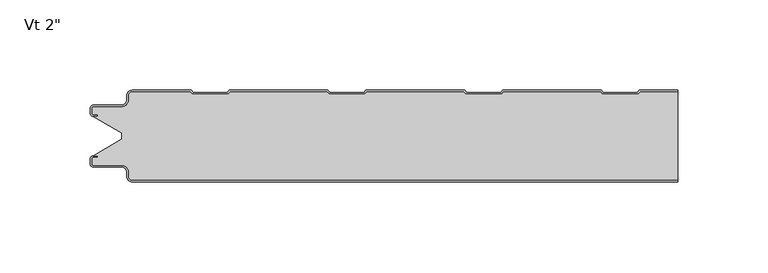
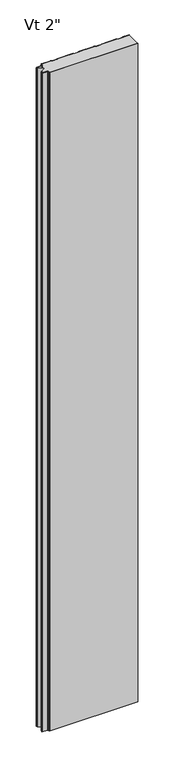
"""IFC4 building model written with IfcOpenShell, lengths in millimetres: plate geometry."""

import ifcopenshell
import ifcopenshell.guid

model = None  # the IFC model being written
_history = None  # IfcOwnerHistory: only IFC2X3 demands one
_inside = {}  # id of a spatial element -> (the spatial element, [elements in it])
_under = {}  # id of a project, library or spatial element -> (it, [spatial elements below it])
_declared = {}  # id of a project -> (the project, [libraries it declares])
_typed = {}  # id of a type object -> (the type object, [elements of that type])
_made_of = {}  # id of a material, layer set ... -> (it, [elements and type objects made of it])


def new_model(schema):
    """Start an empty IFC model of exactly this schema.

    Asked for "IFC4X3", IfcOpenShell would pick the latest addendum, in which some entities
    have other attributes; the version numbers below select the first issue.
    IFC2X3 requires an IfcOwnerHistory on every rooted entity: one is made here for all.
    """
    global model, _history
    if schema == "IFC4X3":
        model = ifcopenshell.file(schema_version=(4, 3, 0, 0))
    else:
        model = ifcopenshell.file(schema=schema)
    _inside.clear()
    _under.clear()
    _declared.clear()
    _typed.clear()
    _made_of.clear()
    _history = None
    if model.schema == "IFC2X3":
        org = make("IfcOrganization", Name="unknown")
        user = make(
            "IfcPersonAndOrganization",
            ThePerson=make("IfcPerson", FamilyName="unknown"),
            TheOrganization=org,
        )
        app = make(
            "IfcApplication",
            ApplicationDeveloper=org,
            Version="unknown",
            ApplicationFullName="unknown",
            ApplicationIdentifier="unknown",
        )
        _history = make(
            "IfcOwnerHistory",
            OwningUser=user,
            OwningApplication=app,
            ChangeAction="ADDED",
            CreationDate=0,
        )
    return model


def make(cls, **values):
    """One entity of the class cls with the attributes given. An attribute that is None is left unset."""
    return model.create_entity(
        cls, **{name: value for name, value in values.items() if value is not None}
    )


def rooted(cls, **values):
    """An entity with a GlobalId (a new one), such as an element, a storey or a relation."""
    return make(cls, GlobalId=ifcopenshell.guid.new(), OwnerHistory=_history, **values)


def si_unit(unit_type, name, prefix=None):
    """IfcSIUnit, for example si_unit("LENGTHUNIT", "METRE", prefix="MILLI")."""
    return make("IfcSIUnit", UnitType=unit_type, Prefix=prefix, Name=name)


def assignment(units):
    """IfcUnitAssignment: the units of a project."""
    return None if units is None else make("IfcUnitAssignment", Units=units)


def point(xyz):
    """IfcCartesianPoint."""
    return None if xyz is None else make("IfcCartesianPoint", Coordinates=xyz)


def direction(xyz):
    """IfcDirection."""
    return None if xyz is None else make("IfcDirection", DirectionRatios=xyz)


def frame(location, z_axis=None, x_axis=None):
    """IfcAxis2Placement3D, a coordinate frame: its origin and axes. An axis left out is left unset."""
    return make(
        "IfcAxis2Placement3D",
        Location=point(location),
        Axis=direction(z_axis),
        RefDirection=direction(x_axis),
    )


def origin():
    """The frame at (0, 0, 0) with its axes left unset."""
    return frame((0.0, 0.0, 0.0))


def place(relative_to, where):
    """IfcLocalPlacement: puts the frame where relative to a parent placement (None: the world)."""
    return make(
        "IfcLocalPlacement", PlacementRelTo=relative_to, RelativePlacement=where
    )


def context(
    kind, dimensions, precision=None, world=None, true_north=None, identifier=None
):
    """IfcGeometricRepresentationContext, for example the 3D "Model" context."""
    return make(
        "IfcGeometricRepresentationContext",
        ContextIdentifier=identifier,
        ContextType=kind,
        CoordinateSpaceDimension=dimensions,
        Precision=precision,
        WorldCoordinateSystem=world,
        TrueNorth=true_north,
    )


def project(units=None, contexts=None):
    """IfcProject with its units and contexts."""
    return rooted(
        "IfcProject",
        Name="project",
        RepresentationContexts=contexts,
        UnitsInContext=assignment(units),
    )


def spatial(cls, under=None, at=None, **own):
    """A site, building, storey or space (cls), placed at a placement, below another one or the project."""
    s = rooted(cls, ObjectPlacement=at, **own)
    if under is not None:
        _under.setdefault(under.id(), (under, []))[1].append(s)
    return s


def polyline(points):
    """IfcPolyline through the points."""
    return make("IfcPolyline", Points=[point(p) for p in points])


def circle_curve(where, radius):
    """IfcCircle in the frame where."""
    return make("IfcCircle", Position=where, Radius=radius)


def shape(context_of_items, identifier, shape_type, items):
    """IfcShapeRepresentation: the items that make up one representation, for example the "Body"."""
    return make(
        "IfcShapeRepresentation",
        ContextOfItems=context_of_items,
        RepresentationIdentifier=identifier,
        RepresentationType=shape_type,
        Items=items,
    )


def source(mapping_origin, context_of_items, identifier, shape_type, items):
    """IfcRepresentationMap: a shape defined once, which mapped items show again and again."""
    return make(
        "IfcRepresentationMap",
        MappingOrigin=mapping_origin,
        MappedRepresentation=shape(context_of_items, identifier, shape_type, items),
    )


def transform(
    local_origin,
    x_axis=None,
    y_axis=None,
    z_axis=None,
    scale=None,
    scale2=None,
    scale3=None,
    uniform=True,
):
    """IfcCartesianTransformationOperator3D, or its non-uniform kind. x_axis, y_axis, z_axis: its Axis1, 2, 3."""
    if uniform:
        return make(
            "IfcCartesianTransformationOperator3D",
            Axis1=direction(x_axis),
            Axis2=direction(y_axis),
            LocalOrigin=point(local_origin),
            Scale=scale,
            Axis3=direction(z_axis),
        )
    return make(
        "IfcCartesianTransformationOperator3DnonUniform",
        Axis1=direction(x_axis),
        Axis2=direction(y_axis),
        LocalOrigin=point(local_origin),
        Scale=scale,
        Axis3=direction(z_axis),
        Scale2=scale2,
        Scale3=scale3,
    )


def mapped(mapping_source, mapping_target):
    """IfcMappedItem: shows the shape of a source again, moved by a transform."""
    return make(
        "IfcMappedItem", MappingSource=mapping_source, MappingTarget=mapping_target
    )


def made_of(thing, what):
    """Note that an element or type object is made of a material, layer set ...; save() writes the relation."""
    if what is not None:
        _made_of.setdefault(what.id(), (what, []))[1].append(thing)
    return thing


def element(
    cls,
    number,
    at=None,
    inside=None,
    cuts=None,
    type_object=None,
    material=None,
    context=None,
    identifier="Body",
    shape_type=None,
    held_by="IfcProductDefinitionShape",
    body=None,
    shapes=None,
    **own,
):
    """One element of the class cls, such as IfcWall. Its Tag is "e" and its number.

    at: its placement. inside: the storey or other place that contains it. cuts: it is an
    opening in that element (IfcRelVoidsElement). A single representation is given by context,
    identifier, shape_type and body (its items); several are given by shapes. held_by: the class
    of the entity that holds the representations. save() writes the other relations.
    """
    e = rooted(cls, Tag="e%d" % number, ObjectPlacement=at, **own)
    if body is not None:
        shapes = [shape(context, identifier, shape_type, body)]
    if shapes is not None:
        e.Representation = make(held_by, Representations=shapes)
    if inside is not None:
        _inside.setdefault(inside.id(), (inside, []))[1].append(e)
    if cuts is not None:
        rooted(
            "IfcRelVoidsElement", RelatingBuildingElement=cuts, RelatedOpeningElement=e
        )
    if type_object is not None:
        _typed.setdefault(type_object.id(), (type_object, []))[1].append(e)
    return made_of(e, material)


def aggregate(whole, parts):
    """IfcRelAggregates: a whole, such as a stair, and the parts it consists of."""
    return rooted("IfcRelAggregates", RelatingObject=whole, RelatedObjects=parts)


def save(model, path):
    """Write the relations noted so far, then the file.

    IfcRelAggregates (storeys below a building ...), IfcRelContainedInSpatialStructure (elements
    in a storey), IfcRelDefinesByType, IfcRelAssociatesMaterial and IfcRelDeclares: one each for
    every whole, place, type object, material and project.
    """
    for whole, parts in _under.values():
        aggregate(whole, parts)
    for where, things in _inside.values():
        rooted(
            "IfcRelContainedInSpatialStructure",
            RelatedElements=things,
            RelatingStructure=where,
        )
    for kind, things in _typed.values():
        rooted("IfcRelDefinesByType", RelatedObjects=things, RelatingType=kind)
    for what, things in _made_of.values():
        rooted("IfcRelAssociatesMaterial", RelatedObjects=things, RelatingMaterial=what)
    for by, libraries in _declared.values():
        rooted("IfcRelDeclares", RelatingContext=by, RelatedDefinitions=libraries)
    model.write(path)


def plane_surface(at):
    """IfcPlane: the flat surface through the origin of the frame at, square to its z axis."""
    return make("IfcPlane", Position=at)


def cylinder_surface(at, radius):
    """IfcCylindricalSurface: all points at the distance radius from the z axis of the frame at."""
    return make("IfcCylindricalSurface", Position=at, Radius=radius)


def revolved_surface(curve, axis_point, axis_direction):
    """IfcSurfaceOfRevolution: the curve turned about the line through axis_point along axis_direction."""
    return make(
        "IfcSurfaceOfRevolution",
        SweptCurve=make("IfcArbitraryOpenProfileDef", ProfileType="CURVE", Curve=curve),
        AxisPosition=make("IfcAxis1Placement", Location=point(axis_point), Axis=direction(axis_direction)),
    )


def advanced_brep(points, edges, surfaces, faces):
    """IfcAdvancedBrep: a solid bounded by faces that lie on surfaces and meet in shared edges.

    An edge is (start, end): straight between two places in points (the first is 0);
    or (start, end, curve); or (start, end, curve, False) where it runs against its curve.
    A face is (place in surfaces, loops), or (place, loops, False) where it looks against
    its surface's normal. A loop lists edges by number (the first is 1), with a minus sign
    where the edge is run from its end to its start. The first loop is the outer one.
    """
    corners = [point(p) for p in points]
    vertices = [make("IfcVertexPoint", VertexGeometry=c) for c in corners]
    made = []
    for start, end, *more in edges:
        made.append(
            make(
                "IfcEdgeCurve",
                EdgeStart=vertices[start],
                EdgeEnd=vertices[end],
                EdgeGeometry=more[0] if more else make("IfcPolyline", Points=[corners[start], corners[end]]),
                SameSense=more[1] if len(more) > 1 else True,
            )
        )
    hull = []
    for where, loops, *sense in faces:
        bounds = []
        for j, loop in enumerate(loops):
            ring = [make("IfcOrientedEdge", EdgeElement=made[abs(k) - 1], Orientation=k > 0) for k in loop]
            bounds.append(
                make(
                    "IfcFaceOuterBound" if j == 0 else "IfcFaceBound",
                    Bound=make("IfcEdgeLoop", EdgeList=ring),
                    Orientation=True,
                )
            )
        hull.append(make("IfcAdvancedFace", Bounds=bounds, FaceSurface=surfaces[where], SameSense=sense[0] if sense else True))
    return make("IfcAdvancedBrep", Outer=make("IfcClosedShell", CfsFaces=hull))


def plate_d6ec243f(model_context):
    return source(origin(), model_context, "Body", "AdvancedBrep", [
        advanced_brep(
        [(-149.8869005, -2.9775467, 2400.0), (-149.8869005, -5.2690127, 2400.0), (-153.8644925, -9.2466047, 2400.0), (-169.4612815, -9.2466047, 2400.0), (-170.0490766, -9.8343998, 2400.0), (-170.0490766, -12.9058755, 2400.0), (-169.4612228, -13.4937293, 2400.0), (-167.1062063, -13.4937293, 2400.0), (-167.1062063, -14.4937446, 2400.0), (-169.395785, -14.4937446, 2400.0), (-153.7374998, -23.7509179, 2400.0), (-153.7374998, -27.0490865, 2400.0), (-169.395785, -36.3062598, 2400.0), (-167.1062063, -36.3062598, 2400.0), (-167.1062063, -37.3062598, 2400.0), (-169.4612418, -37.3062598, 2400.0), (-170.0491185, -37.8941365, 2400.0), (-170.0491185, -40.9656854, 2400.0), (-169.4612416, -41.5535623, 2400.0), (-153.8648171, -41.5535623, 2400.0), (-149.88755, -45.5308295, 2400.0), (-149.88755, -47.8227194, 2400.0), (-147.910276, -49.7999935, 2400.0), (153.7374998, -49.8, 2400.0), (153.7374998, -1.0000044, 2400.0), (133.0522163, -1.0000044, 2400.0), (131.9796914, -2.1911639, 2400.0), (112.1966967, -2.1911639, 2400.0), (111.1241719, -1.0000044, 2400.0), (57.429596, -1.0000044, 2400.0), (56.3570712, -2.1911639, 2400.0), (36.5740765, -2.1911639, 2400.0), (35.5015516, -1.0000044, 2400.0), (-18.1930243, -1.0000044, 2400.0), (-19.2655491, -2.1911639, 2400.0), (-39.0485438, -2.1911639, 2400.0), (-40.1210686, -1.0000044, 2400.0), (-93.8156445, -1.0000044, 2400.0), (-94.8881694, -2.1911639, 2400.0), (-114.671164, -2.1911639, 2400.0), (-115.7436889, -0.9994917, 2400.0), (-147.9088455, -0.9994917, 2400.0), (-149.8869005, -2.9775467, 0.0), (-147.9088455, -0.9994917, 0.0), (-115.7436889, -0.9994917, 0.0), (-114.671164, -2.1911639, 0.0), (-94.8881694, -2.1911639, 0.0), (-93.8156445, -1.0000044, 0.0), (-40.1210686, -1.0000044, 0.0), (-39.0485438, -2.1911639, 0.0), (-19.2655491, -2.1911639, 0.0), (-18.1930243, -1.0000044, 0.0), (35.5015516, -1.0000044, 0.0), (36.5740765, -2.1911639, 0.0), (56.3570712, -2.1911639, 0.0), (57.429596, -1.0000044, 0.0), (111.1241719, -1.0000044, 0.0), (112.1966967, -2.1911639, 0.0), (131.9796914, -2.1911639, 0.0), (133.0522163, -1.0000044, 0.0), (153.7374998, -1.0000044, 0.0), (153.7374998, -49.8, 0.0), (-147.910276, -49.8, 0.0), (-149.88755, -47.8227194, 0.0), (-149.88755, -45.5308295, 0.0), (-153.8648171, -41.5535623, 0.0), (-169.4612416, -41.5535623, 0.0), (-170.0491185, -40.9656854, 0.0), (-170.0491185, -37.8941365, 0.0), (-169.4612418, -37.3062598, 0.0), (-167.1062063, -37.3062598, 0.0), (-167.1062063, -36.3062598, 0.0), (-169.395785, -36.3062598, 0.0), (-153.7374998, -27.0490865, 0.0), (-153.7374998, -23.7509179, 0.0), (-169.395785, -14.4937446, 0.0), (-167.1062063, -14.4937446, 0.0), (-167.1062063, -13.4937293, 0.0), (-169.4612228, -13.4937293, 0.0), (-170.0490766, -12.9058755, 0.0), (-170.0490766, -9.8343998, 0.0), (-169.4612815, -9.2466047, 0.0), (-153.8644925, -9.2466047, 0.0), (-149.8869005, -5.2690127, 0.0)],
        [
            (0, 1),
            (1, 2, circle_curve(frame((-153.8644925, -5.2690127, 2400.0), z_axis=(0.0, 0.0, -1.0), x_axis=(0.0, 1.0, 0.0)), 3.977592)),
            (2, 3),
            (3, 4, circle_curve(frame((-169.4612815, -9.8343998, 2400.0), z_axis=(0.0, 0.0, 1.0), x_axis=(0.0, 1.0, 0.0)), 0.5877951)),
            (4, 5),
            (5, 6, circle_curve(frame((-169.4612228, -12.9058755, 2400.0), z_axis=(0.0, 0.0, 1.0), x_axis=(0.0, 1.0, 0.0)), 0.5878538)),
            (6, 7),
            (7, 8),
            (8, 9),
            (9, 10),
            (10, 11),
            (11, 12),
            (12, 13),
            (13, 14),
            (14, 15),
            (15, 16, circle_curve(frame((-169.4612418, -37.8941365, 2400.0), z_axis=(0.0, 0.0, 1.0), x_axis=(0.0, 1.0, 0.0)), 0.5878766)),
            (16, 17),
            (17, 18, circle_curve(frame((-169.4612416, -40.9656854, 2400.0), z_axis=(0.0, 0.0, 1.0), x_axis=(0.0, 1.0, 0.0)), 0.5878769)),
            (18, 19),
            (19, 20, circle_curve(frame((-153.8648171, -45.5308295, 2400.0), z_axis=(0.0, 0.0, -1.0), x_axis=(0.0, 1.0, 0.0)), 3.9772671)),
            (20, 21),
            (21, 22, circle_curve(frame((-147.910276, -47.8227194, 2400.0), z_axis=(0.0, 0.0, 1.0), x_axis=(0.0, 1.0, 0.0)), 1.977274)),
            (22, 23),
            (23, 24),
            (24, 25),
            (25, 26),
            (26, 27),
            (27, 28),
            (28, 29),
            (29, 30),
            (30, 31),
            (31, 32),
            (32, 33),
            (33, 34),
            (34, 35),
            (35, 36),
            (36, 37),
            (37, 38),
            (38, 39),
            (39, 40),
            (40, 41),
            (41, 0, circle_curve(frame((-147.9088455, -2.9775467, 2400.0), z_axis=(0.0, 0.0, 1.0), x_axis=(0.0, 1.0, 0.0)), 1.978055)),
            (42, 43, circle_curve(frame((-147.9088455, -2.9775467, 0.0), z_axis=(0.0, 0.0, -1.0), x_axis=(0.0, 1.0, 0.0)), 1.978055)),
            (43, 44),
            (44, 45),
            (45, 46),
            (46, 47),
            (47, 48),
            (48, 49),
            (49, 50),
            (50, 51),
            (51, 52),
            (52, 53),
            (53, 54),
            (54, 55),
            (55, 56),
            (56, 57),
            (57, 58),
            (58, 59),
            (59, 60),
            (60, 61),
            (61, 62),
            (62, 63, circle_curve(frame((-147.910276, -47.8227194, 0.0), z_axis=(0.0, 0.0, -1.0), x_axis=(0.0, 1.0, 0.0)), 1.977274)),
            (63, 64),
            (64, 65, circle_curve(frame((-153.8648171, -45.5308295, 0.0), z_axis=(0.0, 0.0, 1.0), x_axis=(0.0, 1.0, 0.0)), 3.9772671)),
            (65, 66),
            (66, 67, circle_curve(frame((-169.4612416, -40.9656854, 0.0), z_axis=(0.0, 0.0, -1.0), x_axis=(0.0, 1.0, 0.0)), 0.5878769)),
            (67, 68),
            (68, 69, circle_curve(frame((-169.4612418, -37.8941365, 0.0), z_axis=(0.0, 0.0, -1.0), x_axis=(0.0, 1.0, 0.0)), 0.5878766)),
            (69, 70),
            (70, 71),
            (71, 72),
            (72, 73),
            (73, 74),
            (74, 75),
            (75, 76),
            (76, 77),
            (77, 78),
            (78, 79, circle_curve(frame((-169.4612228, -12.9058755, 0.0), z_axis=(0.0, 0.0, -1.0), x_axis=(0.0, 1.0, 0.0)), 0.5878538)),
            (79, 80),
            (80, 81, circle_curve(frame((-169.4612815, -9.8343998, 0.0), z_axis=(0.0, 0.0, -1.0), x_axis=(0.0, 1.0, 0.0)), 0.5877951)),
            (81, 82),
            (82, 83, circle_curve(frame((-153.8644925, -5.2690127, 0.0), z_axis=(0.0, 0.0, 1.0), x_axis=(0.0, 1.0, 0.0)), 3.977592)),
            (83, 42),
            (23, 61),
            (60, 24),
            (41, 43),
            (42, 0),
            (83, 1),
            (82, 2),
            (81, 3),
            (80, 4),
            (79, 5),
            (78, 6),
            (77, 7),
            (76, 8),
            (75, 9),
            (74, 10),
            (21, 63),
            (62, 22),
            (20, 64),
            (19, 65),
            (18, 66),
            (17, 67),
            (16, 68),
            (15, 69),
            (14, 70),
            (13, 71),
            (12, 72),
            (11, 73),
            (59, 25),
            (58, 26),
            (57, 27),
            (56, 28),
            (55, 29),
            (54, 30),
            (53, 31),
            (52, 32),
            (51, 33),
            (50, 34),
            (49, 35),
            (48, 36),
            (47, 37),
            (46, 38),
            (45, 39),
            (44, 40),
        ],
        [
            plane_surface(frame((422.5250002, -49.8, 2400.0), z_axis=(0.0, 0.0, 1.0), x_axis=(0.0, -1.0, 0.0))),
            plane_surface(frame((422.5250002, -49.8, 0.0), z_axis=(0.0, 0.0, -1.0), x_axis=(0.0, -1.0, 0.0))),
            plane_surface(frame((153.7374998, -60.8, 2400.0), z_axis=(1.0, 0.0, 0.0), x_axis=(0.0, 0.0, -1.0))),
            cylinder_surface(frame((-147.9088455, -2.9775467, 2400.0), z_axis=(0.0, 0.0, 1.0), x_axis=(0.0, 1.0, 0.0)), 1.978055),
            plane_surface(frame((-149.8869005, -5.2690127, 2400.0), z_axis=(-1.0, 0.0, 0.0), x_axis=(0.0, 0.0, -1.0))),
            revolved_surface(polyline([(-153.8644925, -1.2914207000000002, 0.0), (-153.8644925, -1.2914207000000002, 2400.0)]), (-153.8644925, -5.2690127, 2400.0), (0.0, 0.0, -1.0)),
            plane_surface(frame((-169.4612815, -9.2466047, 2400.0), z_axis=(0.0, 1.0, 0.0), x_axis=(0.0, 0.0, -1.0))),
            cylinder_surface(frame((-169.4612815, -9.8343998, 2400.0), z_axis=(0.0, 0.0, 1.0), x_axis=(0.0, 1.0, 0.0)), 0.5877951),
            plane_surface(frame((-170.0490766, -12.9058755, 2400.0), z_axis=(-1.0, 0.0, 0.0), x_axis=(0.0, 0.0, -1.0))),
            cylinder_surface(frame((-169.4612228, -12.9058755, 2400.0), z_axis=(0.0, 0.0, 1.0), x_axis=(0.0, 1.0, 0.0)), 0.5878538),
            plane_surface(frame((-167.1062063, -13.4937293, 2400.0), z_axis=(0.0, -1.0, 0.0), x_axis=(0.0, 0.0, -1.0))),
            plane_surface(frame((-167.1062063, -14.4937446, 2400.0), z_axis=(-1.0, 0.0, 0.0), x_axis=(0.0, 0.0, -1.0))),
            plane_surface(frame((-169.395785, -14.4937446, 2400.0), z_axis=(0.0, 1.0, 0.0), x_axis=(0.0, 0.0, -1.0))),
            plane_surface(frame((-153.7374998, -23.7509179, 2400.0), z_axis=(-0.5089147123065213, -0.860816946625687, 0.0), x_axis=(0.0, 0.0, -1.0))),
            cylinder_surface(frame((-147.910276, -47.8227194, 2400.0), z_axis=(0.0, 0.0, 1.0), x_axis=(0.0, 1.0, 0.0)), 1.977274),
            plane_surface(frame((-149.88755, -47.8227194, 2400.0), z_axis=(-1.0, 0.0, 0.0), x_axis=(0.0, 0.0, -1.0))),
            revolved_surface(polyline([(-153.8648171, -41.553562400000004, 0.0), (-153.8648171, -41.553562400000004, 2400.0)]), (-153.8648171, -45.5308295, 2400.0), (0.0, 0.0, -1.0)),
            plane_surface(frame((-153.8648171, -41.5535623, 2400.0), z_axis=(0.0, -1.0, 0.0), x_axis=(0.0, 0.0, -1.0))),
            cylinder_surface(frame((-169.4612416, -40.9656854, 2400.0), z_axis=(0.0, 0.0, 1.0), x_axis=(0.0, 1.0, 0.0)), 0.5878769),
            plane_surface(frame((-170.0491185, -40.9656854, 2400.0), z_axis=(-1.0, 0.0, 0.0), x_axis=(0.0, 0.0, -1.0))),
            cylinder_surface(frame((-169.4612418, -37.8941365, 2400.0), z_axis=(0.0, 0.0, 1.0), x_axis=(0.0, 1.0, 0.0)), 0.5878766),
            plane_surface(frame((-169.4612418, -37.3062598, 2400.0), z_axis=(0.0, 1.0, 0.0), x_axis=(0.0, 0.0, -1.0))),
            plane_surface(frame((-167.1062063, -37.3062598, 2400.0), z_axis=(-1.0, 0.0, 0.0), x_axis=(0.0, 0.0, -1.0))),
            plane_surface(frame((-167.1062063, -36.3062598, 2400.0), z_axis=(0.0, -1.0, 0.0), x_axis=(0.0, 0.0, -1.0))),
            plane_surface(frame((997.0725653, -49.8, 2400.0), z_axis=(0.0, -1.0, 0.0), x_axis=(0.0, 0.0, -1.0))),
            plane_surface(frame((-169.395785, -36.3062598, 2400.0), z_axis=(-0.5089147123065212, 0.860816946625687, 0.0), x_axis=(0.0, 0.0, -1.0))),
            plane_surface(frame((-153.7374998, -27.0490865, 2400.0), z_axis=(-1.0, 0.0, 0.0), x_axis=(0.0, 0.0, -1.0))),
            plane_surface(frame((133.0522163, -1.0000044, 2400.0), z_axis=(0.0, 1.0, 0.0), x_axis=(0.0, 0.0, -1.0))),
            plane_surface(frame((131.9796914, -2.1911639, 2400.0), z_axis=(-0.7431448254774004, 0.6691306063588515, 0.0), x_axis=(0.0, 0.0, -1.0))),
            plane_surface(frame((112.1966967, -2.1911639, 2400.0), z_axis=(0.0, 1.0, 0.0), x_axis=(0.0, 0.0, -1.0))),
            plane_surface(frame((111.1241719, -1.0000044, 2400.0), z_axis=(0.7431448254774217, 0.6691306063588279, 0.0), x_axis=(0.0, 0.0, -1.0))),
            plane_surface(frame((57.429596, -1.0000044, 2400.0), z_axis=(0.0, 1.0, 0.0), x_axis=(0.0, 0.0, -1.0))),
            plane_surface(frame((56.3570712, -2.1911639, 2400.0), z_axis=(-0.7431448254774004, 0.6691306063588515, 0.0), x_axis=(0.0, 0.0, -1.0))),
            plane_surface(frame((36.5740765, -2.1911639, 2400.0), z_axis=(0.0, 1.0, 0.0), x_axis=(0.0, 0.0, -1.0))),
            plane_surface(frame((35.5015516, -1.0000044, 2400.0), z_axis=(0.7431448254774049, 0.6691306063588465, 0.0), x_axis=(0.0, 0.0, -1.0))),
            plane_surface(frame((-18.1930243, -1.0000044, 2400.0), z_axis=(0.0, 1.0, 0.0), x_axis=(0.0, 0.0, -1.0))),
            plane_surface(frame((-19.2655491, -2.1911639, 2400.0), z_axis=(-0.7431448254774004, 0.6691306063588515, 0.0), x_axis=(0.0, 0.0, -1.0))),
            plane_surface(frame((-39.0485438, -2.1911639, 2400.0), z_axis=(0.0, 1.0, 0.0), x_axis=(0.0, 0.0, -1.0))),
            plane_surface(frame((-40.1210686, -1.0000044, 2400.0), z_axis=(0.7431448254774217, 0.6691306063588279, 0.0), x_axis=(0.0, 0.0, -1.0))),
            plane_surface(frame((-93.8156445, -1.0000044, 2400.0), z_axis=(0.0, 1.0, 0.0), x_axis=(0.0, 0.0, -1.0))),
            plane_surface(frame((-94.8881694, -2.1911639, 2400.0), z_axis=(-0.7431448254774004, 0.6691306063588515, 0.0), x_axis=(0.0, 0.0, -1.0))),
            plane_surface(frame((-114.671164, -2.1911639, 2400.0), z_axis=(0.0, 1.0, 0.0), x_axis=(0.0, 0.0, -1.0))),
            plane_surface(frame((-115.7436889, -0.9994917, 2400.0), z_axis=(0.7432879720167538, 0.6689715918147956, 0.0), x_axis=(0.0, 0.0, -1.0))),
            plane_surface(frame((-147.9088455, -0.9994917, 2400.0), z_axis=(0.0, 1.0, 0.0), x_axis=(0.0, 0.0, -1.0))),
        ],
        [
            (0, [[1, 2, 3, 4, 5, 6, 7, 8, 9, 10, 11, 12, 13, 14, 15, 16, 17, 18, 19, 20, 21, 22, 23, 24, 25, 26, 27, 28, 29, 30, 31, 32, 33, 34, 35, 36, 37, 38, 39, 40, 41, 42]]),
            (1, [[43, 44, 45, 46, 47, 48, 49, 50, 51, 52, 53, 54, 55, 56, 57, 58, 59, 60, 61, 62, 63, 64, 65, 66, 67, 68, 69, 70, 71, 72, 73, 74, 75, 76, 77, 78, 79, 80, 81, 82, 83, 84]]),
            (2, [[85, -61, 86, -24]]),
            (3, [[87, -43, 88, -42]]),
            (4, [[-88, -84, 89, -1]]),
            (5, [[-89, -83, 90, -2]]),
            (6, [[-90, -82, 91, -3]]),
            (7, [[-91, -81, 92, -4]]),
            (8, [[-92, -80, 93, -5]]),
            (9, [[-93, -79, 94, -6]]),
            (10, [[-94, -78, 95, -7]]),
            (11, [[-95, -77, 96, -8]]),
            (12, [[-96, -76, 97, -9]]),
            (13, [[-97, -75, 98, -10]]),
            (14, [[99, -63, 100, -22]]),
            (15, [[101, -64, -99, -21]]),
            (16, [[102, -65, -101, -20]]),
            (17, [[103, -66, -102, -19]]),
            (18, [[104, -67, -103, -18]]),
            (19, [[105, -68, -104, -17]]),
            (20, [[106, -69, -105, -16]]),
            (21, [[107, -70, -106, -15]]),
            (22, [[108, -71, -107, -14]]),
            (23, [[109, -72, -108, -13]]),
            (24, [[-62, -85, -23, -100]]),
            (25, [[110, -73, -109, -12]]),
            (26, [[-98, -74, -110, -11]]),
            (27, [[-25, -86, -60, 111]]),
            (28, [[-111, -59, 112, -26]]),
            (29, [[-112, -58, 113, -27]]),
            (30, [[-113, -57, 114, -28]]),
            (31, [[-114, -56, 115, -29]]),
            (32, [[-115, -55, 116, -30]]),
            (33, [[-116, -54, 117, -31]]),
            (34, [[-117, -53, 118, -32]]),
            (35, [[-118, -52, 119, -33]]),
            (36, [[-119, -51, 120, -34]]),
            (37, [[-120, -50, 121, -35]]),
            (38, [[-121, -49, 122, -36]]),
            (39, [[-122, -48, 123, -37]]),
            (40, [[-123, -47, 124, -38]]),
            (41, [[-124, -46, 125, -39]]),
            (42, [[-125, -45, 126, -40]]),
            (43, [[-126, -44, -87, -41]]),
        ],
    ),
        advanced_brep(
        [(133.0522163, -1.0, 2400.0), (153.7374998, -1.0, 2400.0), (153.7374998, 0.0, 2400.0), (132.6097769, 0.0, 2400.0), (131.5372521, -1.1911595, 2400.0), (112.6391361, -1.1911595, 2400.0), (111.5666112, 0.0, 2400.0), (56.9871567, 0.0, 2400.0), (55.9146318, -1.1911595, 2400.0), (37.0165158, -1.1911595, 2400.0), (35.943991, 0.0, 2400.0), (-18.6354636, 0.0, 2400.0), (-19.7079884, -1.1911595, 2400.0), (-38.6061045, -1.1911595, 2400.0), (-39.6786293, 0.0, 2400.0), (-94.2580838, 0.0, 2400.0), (-95.3306087, -1.1911595, 2400.0), (-114.2287247, -1.1911595, 2400.0), (-115.3012496, 0.0, 2400.0), (-147.9102806, 0.0, 2400.0), (-150.8875472, -2.9772904, 2400.0), (-150.8875472, -5.2691742, 2400.0), (-153.8648158, -8.2464427, 2400.0), (-169.4612418, -8.2464427, 2400.0), (-171.0491183, -9.8343193, 2400.0), (-171.0491183, -12.905868, 2400.0), (-169.4612418, -14.4937445, 2400.0), (-167.1062063, -14.4937445, 2400.0), (-167.1062063, -13.4937445, 2400.0), (-169.4612418, -13.4937445, 2400.0), (-170.0491183, -12.905868, 2400.0), (-170.0491183, -9.8343193, 2400.0), (-169.4612418, -9.2464427, 2400.0), (-153.8648158, -9.2464427, 2400.0), (-149.8875472, -5.2691742, 2400.0), (-149.8875472, -2.9772904, 2400.0), (-147.9102799, -1.0000218, 2400.0), (-115.7436889, -1.0, 2400.0), (-114.671164, -2.1911595, 2400.0), (-94.8881694, -2.1911595, 2400.0), (-93.8156445, -1.0, 2400.0), (-40.1210686, -1.0, 2400.0), (-39.0485438, -2.1911595, 2400.0), (-19.2655491, -2.1911595, 2400.0), (-18.1930243, -1.0, 2400.0), (35.5015516, -1.0, 2400.0), (36.5740765, -2.1911595, 2400.0), (56.3570712, -2.1911595, 2400.0), (57.429596, -1.0, 2400.0), (111.1241719, -1.0, 2400.0), (112.1966967, -2.1911595, 2400.0), (131.9796914, -2.1911595, 2400.0), (132.6097769, 0.0, 0.0), (153.7374998, 0.0, 0.0), (153.7374998, -1.0, 0.0), (133.0522163, -1.0, 0.0), (131.9796914, -2.1911595, 0.0), (112.1966967, -2.1911595, 0.0), (111.1241719, -1.0, 0.0), (57.429596, -1.0, 0.0), (56.3570712, -2.1911595, 0.0), (36.5740765, -2.1911595, 0.0), (35.5015516, -1.0, 0.0), (-18.1930243, -1.0, 0.0), (-19.2655491, -2.1911595, 0.0), (-39.0485438, -2.1911595, 0.0), (-40.1210686, -1.0, 0.0), (-93.8156445, -1.0, 0.0), (-94.8881694, -2.1911595, 0.0), (-114.671164, -2.1911595, 0.0), (-115.7436889, -1.0, 0.0), (-147.9102799, -1.0, 0.0), (-149.8875472, -2.9772904, 0.0), (-149.8875472, -5.2691742, 0.0), (-153.8648158, -9.2464427, 0.0), (-169.4612418, -9.2464427, 0.0), (-170.0491183, -9.8343193, 0.0), (-170.0491183, -12.905868, 0.0), (-169.4612418, -13.4937445, 0.0), (-167.1062063, -13.4937445, 0.0), (-167.1062063, -14.4937445, 0.0), (-169.4612418, -14.4937445, 0.0), (-171.0491183, -12.905868, 0.0), (-171.0491183, -9.8343193, 0.0), (-169.4612418, -8.2464427, 0.0), (-153.8648158, -8.2464427, 0.0), (-150.8875472, -5.2691742, 0.0), (-150.8875472, -2.9772904, 0.0), (-147.9102806, -2.18e-05, 0.0), (-115.3012496, 0.0, 0.0), (-114.2287247, -1.1911595, 0.0), (-95.3306087, -1.1911595, 0.0), (-94.2580838, 0.0, 0.0), (-39.6786293, 0.0, 0.0), (-38.6061045, -1.1911595, 0.0), (-19.7079884, -1.1911595, 0.0), (-18.6354636, 0.0, 0.0), (35.943991, 0.0, 0.0), (37.0165158, -1.1911595, 0.0), (55.9146318, -1.1911595, 0.0), (56.9871567, 0.0, 0.0), (111.5666112, 0.0, 0.0), (112.6391361, -1.1911595, 0.0), (131.5372521, -1.1911595, 0.0)],
        [
            (0, 1),
            (1, 2),
            (2, 3),
            (3, 4),
            (4, 5),
            (5, 6),
            (6, 7),
            (7, 8),
            (8, 9),
            (9, 10),
            (10, 11),
            (11, 12),
            (12, 13),
            (13, 14),
            (14, 15),
            (15, 16),
            (16, 17),
            (17, 18),
            (18, 19),
            (19, 20, circle_curve(frame((-147.9102787, -2.9772904, 2400.0), z_axis=(0.0, 0.0, 1.0), x_axis=(0.0, 1.0, 0.0)), 2.9772685)),
            (20, 21),
            (21, 22, circle_curve(frame((-153.8648158, -5.2691742, 2400.0), z_axis=(0.0, 0.0, -1.0), x_axis=(0.0, 1.0, 0.0)), 2.9772685)),
            (22, 23),
            (23, 24, circle_curve(frame((-169.4612418, -9.8343193, 2400.0), z_axis=(0.0, 0.0, 1.0), x_axis=(0.0, 1.0, 0.0)), 1.5878765)),
            (24, 25),
            (25, 26, circle_curve(frame((-169.4612418, -12.905868, 2400.0), z_axis=(0.0, 0.0, 1.0), x_axis=(0.0, 1.0, 0.0)), 1.5878765)),
            (26, 27),
            (27, 28),
            (28, 29),
            (29, 30, circle_curve(frame((-169.4612418, -12.905868, 2400.0), z_axis=(0.0, 0.0, -1.0), x_axis=(0.0, 1.0, 0.0)), 0.5878765)),
            (30, 31),
            (31, 32, circle_curve(frame((-169.4612418, -9.8343193, 2400.0), z_axis=(0.0, 0.0, -1.0), x_axis=(0.0, 1.0, 0.0)), 0.5878765)),
            (32, 33),
            (33, 34, circle_curve(frame((-153.8648158, -5.2691742, 2400.0), z_axis=(0.0, 0.0, 1.0), x_axis=(0.0, 1.0, 0.0)), 3.9772685)),
            (34, 35),
            (35, 36, circle_curve(frame((-147.9102787, -2.9772904, 2400.0), z_axis=(0.0, 0.0, -1.0), x_axis=(0.0, 1.0, 0.0)), 1.9772685)),
            (36, 37),
            (37, 38),
            (38, 39),
            (39, 40),
            (40, 41),
            (41, 42),
            (42, 43),
            (43, 44),
            (44, 45),
            (45, 46),
            (46, 47),
            (47, 48),
            (48, 49),
            (49, 50),
            (50, 51),
            (51, 0),
            (52, 53),
            (53, 54),
            (54, 55),
            (55, 56),
            (56, 57),
            (57, 58),
            (58, 59),
            (59, 60),
            (60, 61),
            (61, 62),
            (62, 63),
            (63, 64),
            (64, 65),
            (65, 66),
            (66, 67),
            (67, 68),
            (68, 69),
            (69, 70),
            (70, 71),
            (71, 72, circle_curve(frame((-147.9102787, -2.9772904, 0.0), z_axis=(0.0, 0.0, 1.0), x_axis=(0.0, 1.0, 0.0)), 1.9772685)),
            (72, 73),
            (73, 74, circle_curve(frame((-153.8648158, -5.2691742, 0.0), z_axis=(0.0, 0.0, -1.0), x_axis=(0.0, 1.0, 0.0)), 3.9772685)),
            (74, 75),
            (75, 76, circle_curve(frame((-169.4612418, -9.8343193, 0.0), z_axis=(0.0, 0.0, 1.0), x_axis=(0.0, 1.0, 0.0)), 0.5878765)),
            (76, 77),
            (77, 78, circle_curve(frame((-169.4612418, -12.905868, 0.0), z_axis=(0.0, 0.0, 1.0), x_axis=(0.0, 1.0, 0.0)), 0.5878765)),
            (78, 79),
            (79, 80),
            (80, 81),
            (81, 82, circle_curve(frame((-169.4612418, -12.905868, 0.0), z_axis=(0.0, 0.0, -1.0), x_axis=(0.0, 1.0, 0.0)), 1.5878765)),
            (82, 83),
            (83, 84, circle_curve(frame((-169.4612418, -9.8343193, 0.0), z_axis=(0.0, 0.0, -1.0), x_axis=(0.0, 1.0, 0.0)), 1.5878765)),
            (84, 85),
            (85, 86, circle_curve(frame((-153.8648158, -5.2691742, 0.0), z_axis=(0.0, 0.0, 1.0), x_axis=(0.0, 1.0, 0.0)), 2.9772685)),
            (86, 87),
            (87, 88, circle_curve(frame((-147.9102787, -2.9772904, 0.0), z_axis=(0.0, 0.0, -1.0), x_axis=(0.0, 1.0, 0.0)), 2.9772685)),
            (88, 89),
            (89, 90),
            (90, 91),
            (91, 92),
            (92, 93),
            (93, 94),
            (94, 95),
            (95, 96),
            (96, 97),
            (97, 98),
            (98, 99),
            (99, 100),
            (100, 101),
            (101, 102),
            (102, 103),
            (103, 52),
            (54, 1),
            (0, 55),
            (51, 56),
            (50, 57),
            (49, 58),
            (48, 59),
            (47, 60),
            (46, 61),
            (45, 62),
            (44, 63),
            (43, 64),
            (42, 65),
            (41, 66),
            (40, 67),
            (39, 68),
            (38, 69),
            (37, 70),
            (36, 71),
            (35, 72),
            (34, 73),
            (33, 74),
            (32, 75),
            (31, 76),
            (30, 77),
            (29, 78),
            (28, 79),
            (27, 80),
            (26, 81),
            (25, 82),
            (24, 83),
            (23, 84),
            (22, 85),
            (21, 86),
            (20, 87),
            (19, 88),
            (18, 89),
            (17, 90),
            (16, 91),
            (15, 92),
            (14, 93),
            (13, 94),
            (12, 95),
            (11, 96),
            (10, 97),
            (9, 98),
            (8, 99),
            (7, 100),
            (6, 101),
            (5, 102),
            (4, 103),
            (3, 52),
            (2, 53),
        ],
        [
            plane_surface(frame((422.5250002, 0.0, 2400.0), z_axis=(0.0, 0.0, 1.0), x_axis=(0.0, 1.0, 0.0))),
            plane_surface(frame((422.5250002, 0.0, 0.0), z_axis=(0.0, 0.0, -1.0), x_axis=(0.0, 1.0, 0.0))),
            plane_surface(frame((186.7467922, -1.0, 2400.0), z_axis=(0.0, -1.0, 0.0), x_axis=(0.0, 0.0, -1.0))),
            plane_surface(frame((133.0522163, -1.0, 2400.0), z_axis=(0.7431448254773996, -0.6691306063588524, 0.0), x_axis=(0.0, 0.0, -1.0))),
            plane_surface(frame((131.9796914, -2.1911595, 2400.0), z_axis=(0.0, -1.0, 0.0), x_axis=(0.0, 0.0, -1.0))),
            plane_surface(frame((112.1966967, -2.1911595, 2400.0), z_axis=(-0.7431448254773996, -0.6691306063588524, 0.0), x_axis=(0.0, 0.0, -1.0))),
            plane_surface(frame((111.1241719, -1.0, 2400.0), z_axis=(0.0, -1.0, 0.0), x_axis=(0.0, 0.0, -1.0))),
            plane_surface(frame((57.429596, -1.0, 2400.0), z_axis=(0.7431448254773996, -0.6691306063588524, 0.0), x_axis=(0.0, 0.0, -1.0))),
            plane_surface(frame((56.3570712, -2.1911595, 2400.0), z_axis=(0.0, -1.0, 0.0), x_axis=(0.0, 0.0, -1.0))),
            plane_surface(frame((36.5740765, -2.1911595, 2400.0), z_axis=(-0.7431448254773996, -0.6691306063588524, 0.0), x_axis=(0.0, 0.0, -1.0))),
            plane_surface(frame((35.5015516, -1.0, 2400.0), z_axis=(0.0, -1.0, 0.0), x_axis=(0.0, 0.0, -1.0))),
            plane_surface(frame((-18.1930243, -1.0, 2400.0), z_axis=(0.7431448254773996, -0.6691306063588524, 0.0), x_axis=(0.0, 0.0, -1.0))),
            plane_surface(frame((-19.2655491, -2.1911595, 2400.0), z_axis=(0.0, -1.0, 0.0), x_axis=(0.0, 0.0, -1.0))),
            plane_surface(frame((-39.0485438, -2.1911595, 2400.0), z_axis=(-0.7431448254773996, -0.6691306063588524, 0.0), x_axis=(0.0, 0.0, -1.0))),
            plane_surface(frame((-40.1210686, -1.0, 2400.0), z_axis=(0.0, -1.0, 0.0), x_axis=(0.0, 0.0, -1.0))),
            plane_surface(frame((-93.8156445, -1.0, 2400.0), z_axis=(0.7431448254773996, -0.6691306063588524, 0.0), x_axis=(0.0, 0.0, -1.0))),
            plane_surface(frame((-94.8881694, -2.1911595, 2400.0), z_axis=(0.0, -1.0, 0.0), x_axis=(0.0, 0.0, -1.0))),
            plane_surface(frame((-114.671164, -2.1911595, 2400.0), z_axis=(-0.7431448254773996, -0.6691306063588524, 0.0), x_axis=(0.0, 0.0, -1.0))),
            plane_surface(frame((-115.7436889, -1.0, 2400.0), z_axis=(0.0, -1.0, 0.0), x_axis=(0.0, 0.0, -1.0))),
            revolved_surface(polyline([(-147.9102787, -1.0000218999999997, 0.0), (-147.9102787, -1.0000218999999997, 2400.0)]), (-147.9102787, -2.9772904, 2400.0), (0.0, 0.0, -1.0)),
            plane_surface(frame((-149.8875472, -2.9772904, 2400.0), z_axis=(1.0, 0.0, 0.0), x_axis=(0.0, 0.0, -1.0))),
            cylinder_surface(frame((-153.8648158, -5.2691742, 2400.0), z_axis=(0.0, 0.0, 1.0), x_axis=(0.0, 1.0, 0.0)), 3.9772685),
            plane_surface(frame((-153.8648158, -9.2464427, 2400.0), z_axis=(0.0, -1.0, 0.0), x_axis=(0.0, 0.0, -1.0))),
            revolved_surface(polyline([(-169.4612418, -9.2464428, 0.0), (-169.4612418, -9.2464428, 2400.0)]), (-169.4612418, -9.8343193, 2400.0), (0.0, 0.0, -1.0)),
            plane_surface(frame((-170.0491183, -9.8343193, 2400.0), z_axis=(1.0, 0.0, 0.0), x_axis=(0.0, 0.0, -1.0))),
            revolved_surface(polyline([(-169.4612418, -12.3179915, 0.0), (-169.4612418, -12.3179915, 2400.0)]), (-169.4612418, -12.905868, 2400.0), (0.0, 0.0, -1.0)),
            plane_surface(frame((-169.4612418, -13.4937445, 2400.0), z_axis=(0.0, 1.0, 0.0), x_axis=(0.0, 0.0, -1.0))),
            plane_surface(frame((-167.1062063, -13.4937445, 2400.0), z_axis=(1.0, 0.0, 0.0), x_axis=(0.0, 0.0, -1.0))),
            plane_surface(frame((-167.1062063, -14.4937445, 2400.0), z_axis=(0.0, -1.0, 0.0), x_axis=(0.0, 0.0, -1.0))),
            cylinder_surface(frame((-169.4612418, -12.905868, 2400.0), z_axis=(0.0, 0.0, 1.0), x_axis=(0.0, 1.0, 0.0)), 1.5878765),
            plane_surface(frame((-171.0491183, -12.905868, 2400.0), z_axis=(-1.0, 0.0, 0.0), x_axis=(0.0, 0.0, -1.0))),
            cylinder_surface(frame((-169.4612418, -9.8343193, 2400.0), z_axis=(0.0, 0.0, 1.0), x_axis=(0.0, 1.0, 0.0)), 1.5878765),
            plane_surface(frame((-169.4612418, -8.2464427, 2400.0), z_axis=(0.0, 1.0, 0.0), x_axis=(0.0, 0.0, -1.0))),
            revolved_surface(polyline([(-153.8648158, -2.2919057, 0.0), (-153.8648158, -2.2919057, 2400.0)]), (-153.8648158, -5.2691742, 2400.0), (0.0, 0.0, -1.0)),
            plane_surface(frame((-150.8875472, -5.2691742, 2400.0), z_axis=(-1.0, 0.0, 0.0), x_axis=(0.0, 0.0, -1.0))),
            cylinder_surface(frame((-147.9102787, -2.9772904, 2400.0), z_axis=(0.0, 0.0, 1.0), x_axis=(0.0, 1.0, 0.0)), 2.9772685),
            plane_surface(frame((-147.9102806, 0.0, 2400.0), z_axis=(0.0, 1.0, 0.0), x_axis=(0.0, 0.0, -1.0))),
            plane_surface(frame((-115.3012496, 0.0, 2400.0), z_axis=(0.7431448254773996, 0.6691306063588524, 0.0), x_axis=(0.0, 0.0, -1.0))),
            plane_surface(frame((-114.2287247, -1.1911595, 2400.0), z_axis=(0.0, 1.0, 0.0), x_axis=(0.0, 0.0, -1.0))),
            plane_surface(frame((-95.3306087, -1.1911595, 2400.0), z_axis=(-0.7431448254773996, 0.6691306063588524, 0.0), x_axis=(0.0, 0.0, -1.0))),
            plane_surface(frame((-94.2580838, 0.0, 2400.0), z_axis=(0.0, 1.0, 0.0), x_axis=(0.0, 0.0, -1.0))),
            plane_surface(frame((-39.6786293, 0.0, 2400.0), z_axis=(0.7431448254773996, 0.6691306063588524, 0.0), x_axis=(0.0, 0.0, -1.0))),
            plane_surface(frame((-38.6061045, -1.1911595, 2400.0), z_axis=(0.0, 1.0, 0.0), x_axis=(0.0, 0.0, -1.0))),
            plane_surface(frame((-19.7079884, -1.1911595, 2400.0), z_axis=(-0.7431448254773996, 0.6691306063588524, 0.0), x_axis=(0.0, 0.0, -1.0))),
            plane_surface(frame((-18.6354636, 0.0, 2400.0), z_axis=(0.0, 1.0, 0.0), x_axis=(0.0, 0.0, -1.0))),
            plane_surface(frame((35.943991, 0.0, 2400.0), z_axis=(0.7431448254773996, 0.6691306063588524, 0.0), x_axis=(0.0, 0.0, -1.0))),
            plane_surface(frame((37.0165158, -1.1911595, 2400.0), z_axis=(0.0, 1.0, 0.0), x_axis=(0.0, 0.0, -1.0))),
            plane_surface(frame((55.9146318, -1.1911595, 2400.0), z_axis=(-0.7431448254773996, 0.6691306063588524, 0.0), x_axis=(0.0, 0.0, -1.0))),
            plane_surface(frame((56.9871567, 0.0, 2400.0), z_axis=(0.0, 1.0, 0.0), x_axis=(0.0, 0.0, -1.0))),
            plane_surface(frame((111.5666112, 0.0, 2400.0), z_axis=(0.7431448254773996, 0.6691306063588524, 0.0), x_axis=(0.0, 0.0, -1.0))),
            plane_surface(frame((112.6391361, -1.1911595, 2400.0), z_axis=(0.0, 1.0, 0.0), x_axis=(0.0, 0.0, -1.0))),
            plane_surface(frame((131.5372521, -1.1911595, 2400.0), z_axis=(-0.7431448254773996, 0.6691306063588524, 0.0), x_axis=(0.0, 0.0, -1.0))),
            plane_surface(frame((132.6097769, 0.0, 2400.0), z_axis=(0.0, 1.0, 0.0), x_axis=(0.0, 0.0, -1.0))),
            plane_surface(frame((153.7374998, -60.8, 2400.0), z_axis=(1.0, 0.0, 0.0), x_axis=(0.0, 0.0, -1.0))),
        ],
        [
            (0, [[1, 2, 3, 4, 5, 6, 7, 8, 9, 10, 11, 12, 13, 14, 15, 16, 17, 18, 19, 20, 21, 22, 23, 24, 25, 26, 27, 28, 29, 30, 31, 32, 33, 34, 35, 36, 37, 38, 39, 40, 41, 42, 43, 44, 45, 46, 47, 48, 49, 50, 51, 52]]),
            (1, [[53, 54, 55, 56, 57, 58, 59, 60, 61, 62, 63, 64, 65, 66, 67, 68, 69, 70, 71, 72, 73, 74, 75, 76, 77, 78, 79, 80, 81, 82, 83, 84, 85, 86, 87, 88, 89, 90, 91, 92, 93, 94, 95, 96, 97, 98, 99, 100, 101, 102, 103, 104]]),
            (2, [[-55, 105, -1, 106]]),
            (3, [[107, -56, -106, -52]]),
            (4, [[108, -57, -107, -51]]),
            (5, [[109, -58, -108, -50]]),
            (6, [[110, -59, -109, -49]]),
            (7, [[111, -60, -110, -48]]),
            (8, [[112, -61, -111, -47]]),
            (9, [[113, -62, -112, -46]]),
            (10, [[114, -63, -113, -45]]),
            (11, [[115, -64, -114, -44]]),
            (12, [[116, -65, -115, -43]]),
            (13, [[117, -66, -116, -42]]),
            (14, [[118, -67, -117, -41]]),
            (15, [[119, -68, -118, -40]]),
            (16, [[120, -69, -119, -39]]),
            (17, [[121, -70, -120, -38]]),
            (18, [[122, -71, -121, -37]]),
            (19, [[123, -72, -122, -36]]),
            (20, [[124, -73, -123, -35]]),
            (21, [[125, -74, -124, -34]]),
            (22, [[126, -75, -125, -33]]),
            (23, [[127, -76, -126, -32]]),
            (24, [[128, -77, -127, -31]]),
            (25, [[129, -78, -128, -30]]),
            (26, [[130, -79, -129, -29]]),
            (27, [[131, -80, -130, -28]]),
            (28, [[132, -81, -131, -27]]),
            (29, [[133, -82, -132, -26]]),
            (30, [[134, -83, -133, -25]]),
            (31, [[135, -84, -134, -24]]),
            (32, [[136, -85, -135, -23]]),
            (33, [[137, -86, -136, -22]]),
            (34, [[138, -87, -137, -21]]),
            (35, [[139, -88, -138, -20]]),
            (36, [[140, -89, -139, -19]]),
            (37, [[141, -90, -140, -18]]),
            (38, [[142, -91, -141, -17]]),
            (39, [[143, -92, -142, -16]]),
            (40, [[144, -93, -143, -15]]),
            (41, [[145, -94, -144, -14]]),
            (42, [[146, -95, -145, -13]]),
            (43, [[147, -96, -146, -12]]),
            (44, [[148, -97, -147, -11]]),
            (45, [[149, -98, -148, -10]]),
            (46, [[150, -99, -149, -9]]),
            (47, [[151, -100, -150, -8]]),
            (48, [[152, -101, -151, -7]]),
            (49, [[153, -102, -152, -6]]),
            (50, [[154, -103, -153, -5]]),
            (51, [[155, -104, -154, -4]]),
            (52, [[-3, 156, -53, -155]]),
            (53, [[-105, -54, -156, -2]]),
        ],
    ),
        advanced_brep(
        [(-149.8873936, -47.8223811, 2400.0), (-149.8873936, -45.5308685, 2400.0), (-153.864739, -41.5535232, 2400.0), (-169.4612512, -41.5535232, 2400.0), (-170.0491084, -40.965666, 2400.0), (-170.0491084, -37.8941346, 2400.0), (-169.4612373, -37.3062635, 2400.0), (-167.1062063, -37.3062635, 2400.0), (-167.1062063, -36.3062599, 2400.0), (-169.4612418, -36.3062599, 2400.0), (-171.0491183, -37.8941364, 2400.0), (-171.0491183, -40.9656851, 2400.0), (-169.4612418, -42.5535616, 2400.0), (-153.8648158, -42.5535616, 2400.0), (-150.8875472, -45.5308302, 2400.0), (-150.8875472, -47.822714, 2400.0), (-147.9102787, -50.7999825, 2400.0), (153.7374998, -50.8, 2400.0), (153.7374998, -49.7992912, 2400.0), (-147.9104835, -49.7992912, 2400.0), (-149.8873936, -47.8223811, 0.0), (-147.9104835, -49.7992912, 0.0), (153.7374998, -49.7992912, 0.0), (153.7374998, -50.8, 0.0), (-147.9102787, -50.8, 0.0), (-150.8875472, -47.822714, 0.0), (-150.8875472, -45.5308302, 0.0), (-153.8648158, -42.5535616, 0.0), (-169.4612418, -42.5535616, 0.0), (-171.0491183, -40.9656851, 0.0), (-171.0491183, -37.8941364, 0.0), (-169.4612418, -36.3062599, 0.0), (-167.1062063, -36.3062599, 0.0), (-167.1062063, -37.3062635, 0.0), (-169.4612373, -37.3062635, 0.0), (-170.0491084, -37.8941346, 0.0), (-170.0491084, -40.965666, 0.0), (-169.4612512, -41.5535232, 0.0), (-153.864739, -41.5535232, 0.0), (-149.8873936, -45.5308685, 0.0)],
        [
            (0, 1),
            (1, 2, circle_curve(frame((-153.864739, -45.5308685, 2400.0), z_axis=(0.0, 0.0, 1.0), x_axis=(-1.0, 0.0, 0.0)), 3.9773454)),
            (2, 3),
            (3, 4, circle_curve(frame((-169.4612512, -40.965666, 2400.0), z_axis=(0.0, 0.0, -1.0), x_axis=(-1.0, 0.0, 0.0)), 0.5878572)),
            (4, 5),
            (5, 6, circle_curve(frame((-169.4612373, -37.8941346, 2400.0), z_axis=(0.0, 0.0, -1.0), x_axis=(-1.0, 0.0, 0.0)), 0.5878711)),
            (6, 7),
            (7, 8),
            (8, 9),
            (9, 10, circle_curve(frame((-169.4612418, -37.8941364, 2400.0), z_axis=(0.0, 0.0, 1.0), x_axis=(-1.0, 0.0, 0.0)), 1.5878765)),
            (10, 11),
            (11, 12, circle_curve(frame((-169.4612418, -40.9656851, 2400.0), z_axis=(0.0, 0.0, 1.0), x_axis=(-1.0, 0.0, 0.0)), 1.5878765)),
            (12, 13),
            (13, 14, circle_curve(frame((-153.8648158, -45.5308302, 2400.0), z_axis=(0.0, 0.0, -1.0), x_axis=(-1.0, 0.0, 0.0)), 2.9772685)),
            (14, 15),
            (15, 16, circle_curve(frame((-147.9102787, -47.822714, 2400.0), z_axis=(0.0, 0.0, 1.0), x_axis=(-1.0, 0.0, 0.0)), 2.9772685)),
            (16, 17),
            (17, 18),
            (18, 19),
            (19, 0, circle_curve(frame((-147.9104835, -47.8223811, 2400.0), z_axis=(0.0, 0.0, -1.0), x_axis=(-1.0, 0.0, 0.0)), 1.9769101)),
            (20, 21, circle_curve(frame((-147.9104835, -47.8223811, 0.0), z_axis=(0.0, 0.0, 1.0), x_axis=(-1.0, 0.0, 0.0)), 1.9769101)),
            (21, 22),
            (22, 23),
            (23, 24),
            (24, 25, circle_curve(frame((-147.9102787, -47.822714, 0.0), z_axis=(0.0, 0.0, -1.0), x_axis=(-1.0, 0.0, 0.0)), 2.9772685)),
            (25, 26),
            (26, 27, circle_curve(frame((-153.8648158, -45.5308302, 0.0), z_axis=(0.0, 0.0, 1.0), x_axis=(-1.0, 0.0, 0.0)), 2.9772685)),
            (27, 28),
            (28, 29, circle_curve(frame((-169.4612418, -40.9656851, 0.0), z_axis=(0.0, 0.0, -1.0), x_axis=(-1.0, 0.0, 0.0)), 1.5878765)),
            (29, 30),
            (30, 31, circle_curve(frame((-169.4612418, -37.8941364, 0.0), z_axis=(0.0, 0.0, -1.0), x_axis=(-1.0, 0.0, 0.0)), 1.5878765)),
            (31, 32),
            (32, 33),
            (33, 34),
            (34, 35, circle_curve(frame((-169.4612373, -37.8941346, 0.0), z_axis=(0.0, 0.0, 1.0), x_axis=(-1.0, 0.0, 0.0)), 0.5878711)),
            (35, 36),
            (36, 37, circle_curve(frame((-169.4612512, -40.965666, 0.0), z_axis=(0.0, 0.0, 1.0), x_axis=(-1.0, 0.0, 0.0)), 0.5878572)),
            (37, 38),
            (38, 39, circle_curve(frame((-153.864739, -45.5308685, 0.0), z_axis=(0.0, 0.0, -1.0), x_axis=(-1.0, 0.0, 0.0)), 3.9773454)),
            (39, 20),
            (17, 23),
            (22, 18),
            (16, 24),
            (21, 19),
            (20, 0),
            (39, 1),
            (38, 2),
            (37, 3),
            (4, 36),
            (35, 5),
            (34, 6),
            (33, 7),
            (32, 8),
            (31, 9),
            (30, 10),
            (29, 11),
            (28, 12),
            (27, 13),
            (26, 14),
            (25, 15),
        ],
        [
            plane_surface(frame((422.5250002, -50.8, 2400.0), z_axis=(0.0, 0.0, 1.0), x_axis=(0.0, -1.0, 0.0))),
            plane_surface(frame((422.5250002, -50.8, 0.0), z_axis=(0.0, 0.0, -1.0), x_axis=(0.0, -1.0, 0.0))),
            plane_surface(frame((153.7374998, -60.8, 2400.0), z_axis=(1.0, 0.0, 0.0), x_axis=(0.0, 0.0, -1.0))),
            plane_surface(frame((997.0725653, -50.8, 2400.0), z_axis=(0.0, -1.0, 0.0), x_axis=(0.0, 0.0, -1.0))),
            plane_surface(frame((-147.9104835, -49.7992912, 2400.0), z_axis=(0.0, 1.0, 0.0), x_axis=(0.0, 0.0, -1.0))),
            revolved_surface(polyline([(-149.8873936, -47.8223811, 0.0), (-149.8873936, -47.8223811, 2400.0)]), (-147.9104835, -47.8223811, 2400.0), (0.0, 0.0, -1.0)),
            plane_surface(frame((-149.8873936, -45.5308685, 2400.0), z_axis=(1.0, 0.0, 0.0), x_axis=(0.0, 0.0, -1.0))),
            cylinder_surface(frame((-153.864739, -45.5308685, 2400.0), z_axis=(0.0, 0.0, 1.0), x_axis=(-1.0, 0.0, 0.0)), 3.9773454),
            plane_surface(frame((-169.4612512, -41.5535232, 2400.0), z_axis=(0.0, 1.0, 0.0), x_axis=(0.0, 0.0, -1.0))),
            plane_surface(frame((-170.0491084, -37.8941346, 2400.0), z_axis=(1.0, 0.0, 0.0), x_axis=(0.0, 0.0, -1.0))),
            revolved_surface(polyline([(-170.0491084, -37.8941346, 0.0), (-170.0491084, -37.8941346, 2400.0)]), (-169.4612373, -37.8941346, 2400.0), (0.0, 0.0, -1.0)),
            plane_surface(frame((-167.1062063, -37.3062635, 2400.0), z_axis=(0.0, -1.0, 0.0), x_axis=(0.0, 0.0, -1.0))),
            plane_surface(frame((-167.1062063, -36.3062599, 2400.0), z_axis=(1.0, 0.0, 0.0), x_axis=(0.0, 0.0, -1.0))),
            plane_surface(frame((-169.4612418, -36.3062599, 2400.0), z_axis=(0.0, 1.0, 0.0), x_axis=(0.0, 0.0, -1.0))),
            cylinder_surface(frame((-169.4612418, -37.8941364, 2400.0), z_axis=(0.0, 0.0, 1.0), x_axis=(-1.0, 0.0, 0.0)), 1.5878765),
            plane_surface(frame((-171.0491183, -40.9656851, 2400.0), z_axis=(-1.0, 0.0, 0.0), x_axis=(0.0, 0.0, -1.0))),
            cylinder_surface(frame((-169.4612418, -40.9656851, 2400.0), z_axis=(0.0, 0.0, 1.0), x_axis=(-1.0, 0.0, 0.0)), 1.5878765),
            plane_surface(frame((-153.8648158, -42.5535616, 2400.0), z_axis=(0.0, -1.0, 0.0), x_axis=(0.0, 0.0, -1.0))),
            revolved_surface(polyline([(-156.8420843, -45.5308302, 0.0), (-156.8420843, -45.5308302, 2400.0)]), (-153.8648158, -45.5308302, 2400.0), (0.0, 0.0, -1.0)),
            plane_surface(frame((-150.8875472, -47.822714, 2400.0), z_axis=(-1.0, 0.0, 0.0), x_axis=(0.0, 0.0, -1.0))),
            cylinder_surface(frame((-147.9102787, -47.822714, 2400.0), z_axis=(0.0, 0.0, 1.0), x_axis=(-1.0, 0.0, 0.0)), 2.9772685),
            revolved_surface(polyline([(-170.0491084, -40.965666, 0.0), (-170.0491084, -40.965666, 2400.0)]), (-169.4612512, -40.965666, 2400.0), (0.0, 0.0, -1.0)),
        ],
        [
            (0, [[1, 2, 3, 4, 5, 6, 7, 8, 9, 10, 11, 12, 13, 14, 15, 16, 17, 18, 19, 20]]),
            (1, [[21, 22, 23, 24, 25, 26, 27, 28, 29, 30, 31, 32, 33, 34, 35, 36, 37, 38, 39, 40]]),
            (2, [[41, -23, 42, -18]]),
            (3, [[-24, -41, -17, 43]]),
            (4, [[-19, -42, -22, 44]]),
            (5, [[-44, -21, 45, -20]]),
            (6, [[-45, -40, 46, -1]]),
            (7, [[-46, -39, 47, -2]]),
            (8, [[-47, -38, 48, -3]]),
            (9, [[49, -36, 50, -5]]),
            (10, [[-50, -35, 51, -6]]),
            (11, [[-51, -34, 52, -7]]),
            (12, [[-52, -33, 53, -8]]),
            (13, [[-53, -32, 54, -9]]),
            (14, [[-54, -31, 55, -10]]),
            (15, [[-55, -30, 56, -11]]),
            (16, [[-56, -29, 57, -12]]),
            (17, [[-57, -28, 58, -13]]),
            (18, [[-58, -27, 59, -14]]),
            (19, [[-59, -26, 60, -15]]),
            (20, [[-60, -25, -43, -16]]),
            (21, [[-48, -37, -49, -4]]),
        ],
    ),
    ])


if __name__ == "__main__":
    model = new_model("IFC4")
    model_context = context("Model", 3, world=origin())
    ifc_project = project(units=[si_unit("LENGTHUNIT", "METRE", prefix="MILLI")], contexts=[model_context])
    site = spatial("IfcSite", under=ifc_project)
    building = spatial("IfcBuilding", under=site)
    placement = place(None, origin())
    plate_shape = plate_d6ec243f(model_context)
    element("IfcPlate", 1, ObjectType="KIP-SLI-FLI-R19-CP-Vt-FL_SL : Vt 2\"", at=placement, inside=building, context=model_context, shape_type="MappedRepresentation", body=[
        mapped(plate_shape, transform((0.0, 0.0, 0.0), x_axis=(1.0, 0.0, 0.0), y_axis=(0.0, 1.0, 0.0), z_axis=(0.0, 0.0, 1.0))),
    ])
    save(model, "model.ifc")
